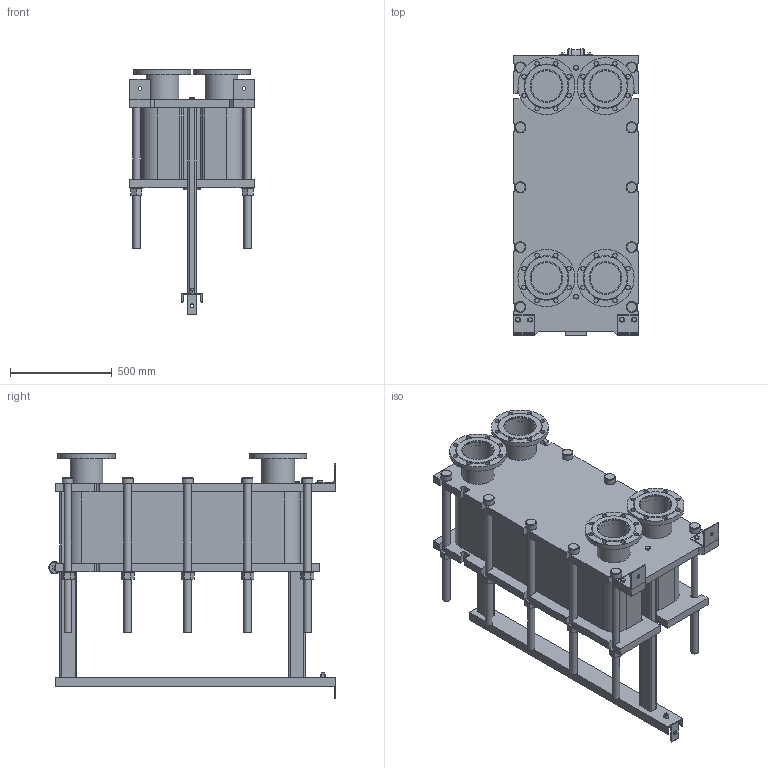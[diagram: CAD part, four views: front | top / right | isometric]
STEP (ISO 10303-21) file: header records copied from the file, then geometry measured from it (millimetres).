
FILE_DESCRIPTION(/* description */ (''),/* implementation_level */ '2;1');
FILE_NAME(/* name */ 'C:\Users\zhuro\Desktop\ENCO\TO\ЭН-041\ЭН-0,5-041-102-1.stp',/* time_stamp */ '2022-06-06T10:58:14+03:00',/* author */ ('zhuro'),/* organization */ (''),/* preprocessor_version */ 'ST-DEVELOPER v18.1',/* originating_system */ 'Autodesk Inventor 2022',/* authorisation */ '');
FILE_SCHEMA (('AUTOMOTIVE_DESIGN { 1 0 10303 214 3 1 1 }'));
Length unit declared in the file: millimetre
Products named in the file (1): ЭН-0,5-041-102-1
Bounding box: 610 x 1406.5 x 1205 mm (x, y, z)
Volume: 278535375.4 mm3; surface area: 9068609.5 mm2
Topology: 52 solids, 52 shells, 711 faces, 1696 edges, 1094 vertices
Faces by surface type: plane 487, cylinder 177, cone 41, torus 6
Full cylindrical faces by diameter (mm): 8 x4, 10 x2, 16 x8, 18 x3, 22 x32, 36 x24, 50 x1, 54 x10, 60 x12, 151 x4, 161 x8, 280 x4
Entity records: 22667 total; most frequent: CARTESIAN_POINT 5230, DIRECTION 3644, ORIENTED_EDGE 3392, EDGE_CURVE 1696, AXIS2_PLACEMENT_3D 1272, LINE 1100, VECTOR 1100, VERTEX_POINT 1094
